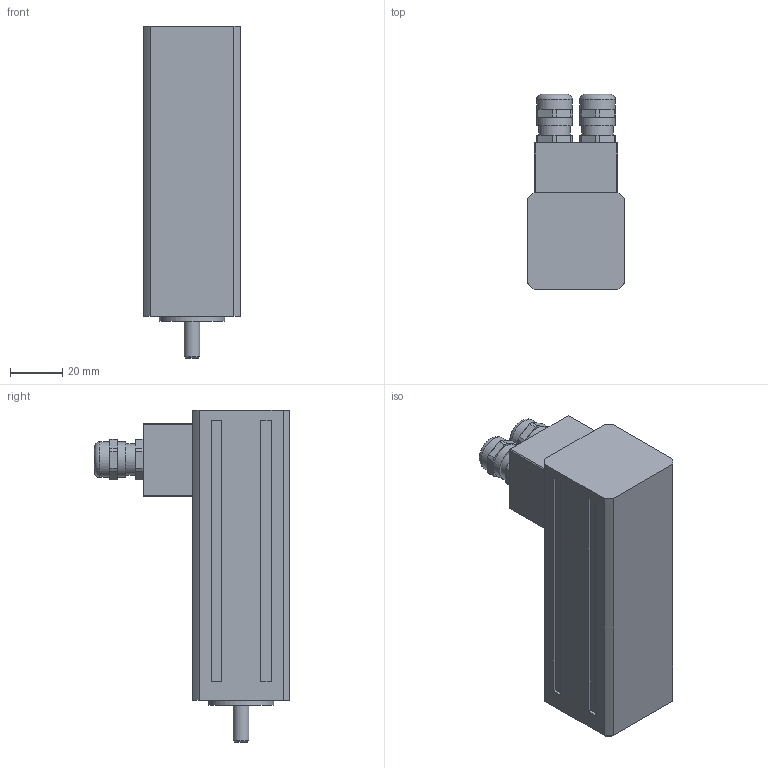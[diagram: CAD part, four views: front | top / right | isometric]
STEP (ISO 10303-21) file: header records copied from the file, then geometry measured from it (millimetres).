
FILE_DESCRIPTION((''),'2;1');
FILE_NAME('V:\katalog\3D_modely\T\Ruzne\STEP\T1000 00_0030 Z.stp','2010-11-08T09:13:13',('oslejsek'),(''),'Autodesk Inventor 10','Autodesk Inventor 10','');
FILE_SCHEMA(('AUTOMOTIVE_DESIGN { 1 0 10303 214 1 1 1 1 }'));
Length unit declared in the file: millimetre
Products named in the file (4): T1000 00_0030 Z; T1000 00_0030; pruchodka_spodek; pruchodka_vrch
Assembly tree (5 placements, depth 2):
  T1000 00_0030 Z
    T1000 00_0030
    pruchodka_spodek  x2
    pruchodka_vrch  x2
Bounding box: 37 x 74.6 x 127 mm (x, y, z)
Volume: 168731.2 mm3; surface area: 27942.7 mm2
Topology: 5 solids, 5 shells, 150 faces, 358 edges, 241 vertices
Faces by surface type: plane 79, cylinder 48, bspline 20, torus 2, cone 1
Full cylindrical faces by diameter (mm): 6 x1, 7 x2, 8 x1, 10 x2, 12 x4, 13.6 x4, 14 x1, 25 x1
Entity records: 3098 total; most frequent: CARTESIAN_POINT 718, DIRECTION 484, ORIENTED_EDGE 416, EDGE_CURVE 208, AXIS2_PLACEMENT_3D 178, VERTEX_POINT 152, EDGE_LOOP 152, VECTOR 128
